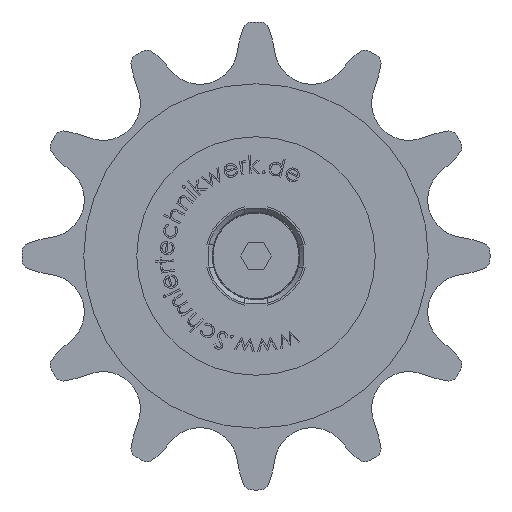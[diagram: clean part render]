
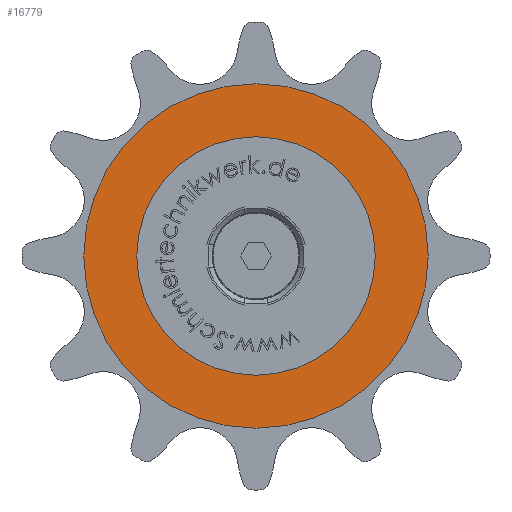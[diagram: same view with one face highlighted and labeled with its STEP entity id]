
A CAD part, front view. The second image highlights one B-rep face of the part: STEP entity #16779.
In plain terms, the highlighted planar face has unit normal (0, 1, 0).
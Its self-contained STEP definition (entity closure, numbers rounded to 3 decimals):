
#1022 = EDGE_LOOP ( 'NONE', ( #14211 ) ) ;
#1145 = DIRECTION ( 'NONE',  ( 0., 1., 0. ) ) ;
#2992 = CARTESIAN_POINT ( 'NONE',  ( 7.5, -40.7, 0. ) ) ;
#3146 = EDGE_CURVE ( 'NONE', #19920, #19920, #15121, .T. ) ;
#3338 = DIRECTION ( 'NONE',  ( 1., 0., 0. ) ) ;
#3798 = FACE_BOUND ( 'NONE', #1022, .T. ) ;
#6304 = VERTEX_POINT ( 'NONE', #17883 ) ;
#6779 = AXIS2_PLACEMENT_3D ( 'NONE', #18070, #1145, #12494 ) ;
#6940 = ORIENTED_EDGE ( 'NONE', *, *, #14971, .T. ) ;
#10689 = AXIS2_PLACEMENT_3D ( 'NONE', #13282, #20814, #16738 ) ;
#10995 = EDGE_LOOP ( 'NONE', ( #6940 ) ) ;
#12494 = DIRECTION ( 'NONE',  ( 0., 0., -1. ) ) ;
#13167 = FACE_OUTER_BOUND ( 'NONE', #10995, .T. ) ;
#13282 = CARTESIAN_POINT ( 'NONE',  ( 0., -40.7, 7. ) ) ;
#14211 = ORIENTED_EDGE ( 'NONE', *, *, #3146, .T. ) ;
#14971 = EDGE_CURVE ( 'NONE', #6304, #6304, #17409, .T. ) ;
#15121 = CIRCLE ( 'NONE', #21032, 7.5 ) ;
#15260 = PLANE ( 'NONE',  #10689 ) ;
#16738 = DIRECTION ( 'NONE',  ( 0., 0., 1. ) ) ;
#16779 = ADVANCED_FACE ( 'NONE', ( #13167, #3798 ), #15260, .T. ) ;
#17409 = CIRCLE ( 'NONE', #6779, 19.5 ) ;
#17883 = CARTESIAN_POINT ( 'NONE',  ( 0., -40.7, -19.5 ) ) ;
#18070 = CARTESIAN_POINT ( 'NONE',  ( 0., -40.7, 0. ) ) ;
#18651 = DIRECTION ( 'NONE',  ( 0., -1., 0. ) ) ;
#19920 = VERTEX_POINT ( 'NONE', #2992 ) ;
#20814 = DIRECTION ( 'NONE',  ( 0., 1., 0. ) ) ;
#21032 = AXIS2_PLACEMENT_3D ( 'NONE', #23935, #18651, #3338 ) ;
#23935 = CARTESIAN_POINT ( 'NONE',  ( 0., -40.7, 0. ) ) ;
